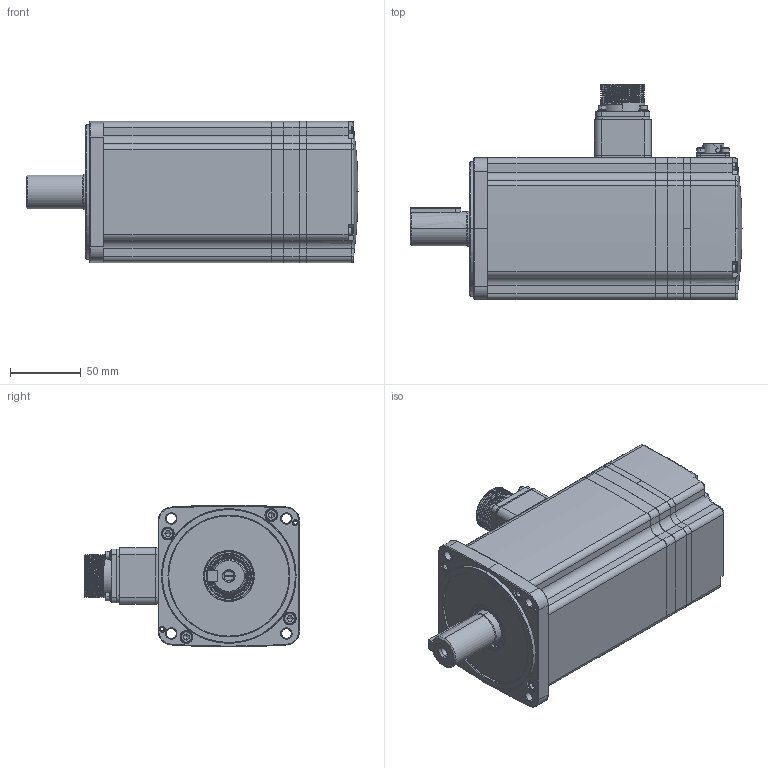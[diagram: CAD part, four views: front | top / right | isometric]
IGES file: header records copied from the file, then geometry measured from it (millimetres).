
Start section: SolidWorks IGES file using analytic representation for surfaces
Bounding box: 234.5 x 152.05 x 100 mm (x, y, z)
Surface area: 127191.3 mm2 (no closed solid volume)
Topology: 0 solids, 0 shells, 713 faces, 10318 edges, 10289 vertices
Faces by surface type: revolution 375, bspline 338
